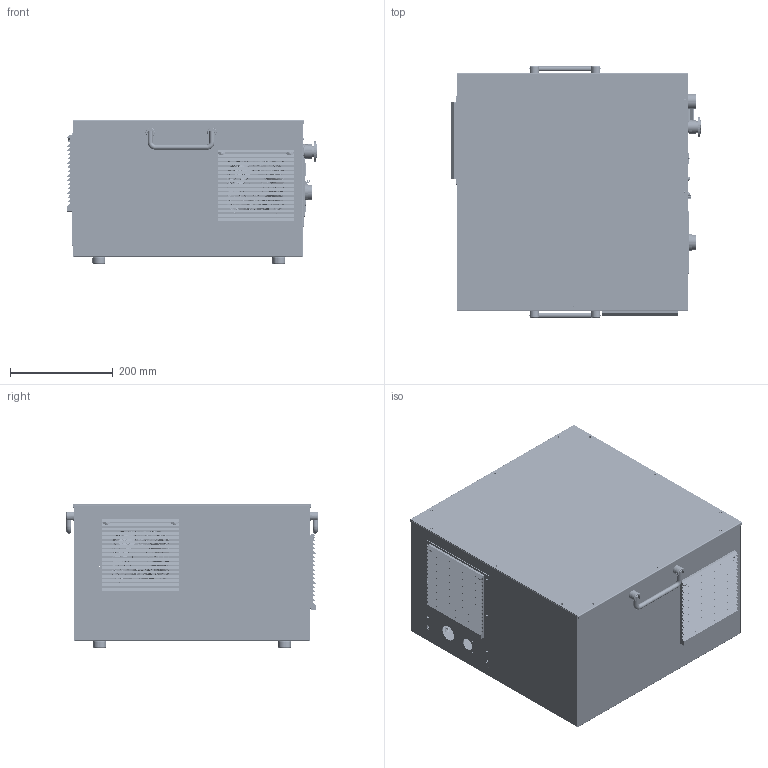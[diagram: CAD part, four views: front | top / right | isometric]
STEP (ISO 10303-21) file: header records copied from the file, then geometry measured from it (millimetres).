
FILE_DESCRIPTION(/* description */ (''),/* implementation_level */ '2;1');
FILE_NAME(/* name */ '06&07电柜V2.1.stp',/* time_stamp */ '2022-09-03T16:17:07+08:00',/* author */ (''),/* organization */ (''),/* preprocessor_version */ 'ST-DEVELOPER v16.7',/* originating_system */ 'SIEMENS PLM Software NX 12.0',/* authorisation */ '');
FILE_SCHEMA (('AUTOMOTIVE_DESIGN { 1 0 10303 214 3 1 1 1 }'));
Products named in the file (40): 压铆螺母M4-2; 圆螺母M5x10x8; 焊接螺柱M4x16; 柜主架; 焊接螺柱M4x8; 前门板; T30安装板; T30转换板; 螺钉M4x6; 软玻璃50x40xT2; 线缆安装板; 风扇安装板; _M10x1.0-washer; _M10x1.0-nut; _UWAFN120-1; _UWAFN120-2; _UWAFN120-dummy; B-1100-1-M; B-1100-1-F; 手拧螺钉M4x6; 橡胶脚垫-25#-M8x11; 插排盒盖; 插排安装板; 柜盖; 电气组3P; 电源开关组; 风扇120; 安装T30模块_MODEL; 选配钣金_MODEL; 软玻璃压紧块_MODEL; 软玻璃压紧组件_MODEL; 风扇&线缆安装板_MODEL; UWAFN120; 1寸合页_MODEL; 柜主体组件_MODEL; 前门板组件_MODEL; 柜体_MODEL; 电柜主体_MODEL; 电气组件_MODEL; ASM_06&07电柜V2.1-标准型
Assembly tree (71 placements, depth 5):
  ASM_06&07电柜V2.1-标准型
    电气组件_MODEL
      风扇120  x2
      电源开关组
      电气组3P
    电柜主体_MODEL
      柜体_MODEL
        前门板组件_MODEL
          前门板
          焊接螺柱M4x8  x7
        柜主体组件_MODEL
          柜主架
          焊接螺柱M4x16  x8
          焊接螺柱M4x8  x5
          圆螺母M5x10x8  x4
      柜盖
      插排安装板
      插排盒盖
      1寸合页_MODEL  x2
        B-1100-1-F
        B-1100-1-M
      橡胶脚垫-25#-M8x11  x4
      手拧螺钉M4x6
      UWAFN120  x2
        _UWAFN120-dummy
        _UWAFN120-2
        _UWAFN120-1
        _M10x1.0-nut
        _M10x1.0-washer
      风扇&线缆安装板_MODEL
        风扇安装板
        线缆安装板
      软玻璃压紧组件_MODEL
        软玻璃压紧块_MODEL
          压铆螺母M4-2  x2
        软玻璃50x40xT2
        螺钉M4x6  x2
    选配钣金_MODEL
      安装T30模块_MODEL
        T30转换板
        T30安装板
Bounding box: 486.35 x 490 x 280.5 mm (x, y, z)
Volume: 2203896.3 mm3; surface area: 2439177.2 mm2
Topology: 116 solids, 120 shells, 6723 faces, 18008 edges, 11274 vertices
Faces by surface type: plane 3366, cylinder 2295, torus 411, cone 240, bspline 220, sphere 129, revolution 48, extrusion 14
Full cylindrical faces by diameter (mm): 2 x12, 2.5 x12, 2.85 x16, 3 x8, 3.3 x41, 3.61 x2, 3.838 x2, 4 x24, 4.2 x8, 4.5 x19, 5 x31, 5.38 x2, 5.41 x2, 6 x2, 7 x6, 7.658 x2, 7.9 x2, 8 x8, 8.917 x4, 9 x4, 10 x22, 15.55 x1, 17 x2, 18 x8, 20 x3, 22 x3, 22.5 x1, 23 x3, 24 x2, 25 x4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
Entity records: 170331 total; most frequent: CARTESIAN_POINT 56253, ORIENTED_EDGE 23062, DIRECTION 22491, EDGE_CURVE 11531, AXIS2_PLACEMENT_3D 7552, VERTEX_POINT 7416, VECTOR 7363, LINE 7349
